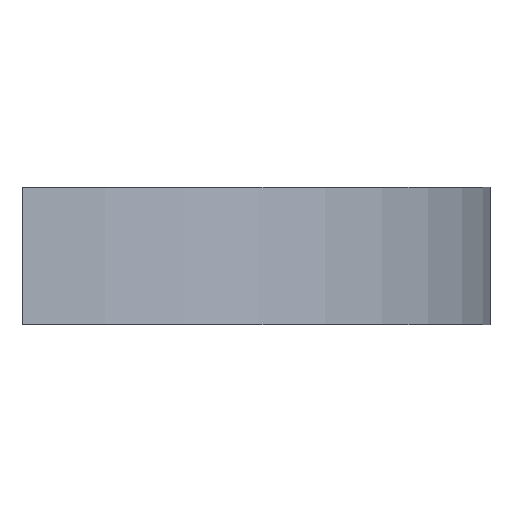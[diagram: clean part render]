
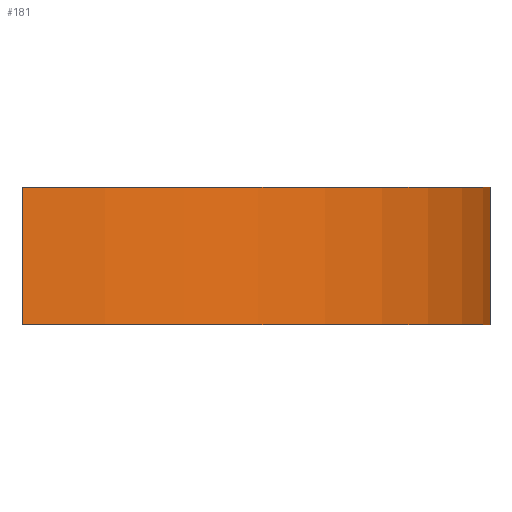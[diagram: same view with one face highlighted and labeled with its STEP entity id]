
A CAD part, left-side view. The second image highlights one B-rep face of the part: STEP entity #181.
In plain terms, the highlighted cylindrical face has radius 90 mm (diameter 180 mm), a partial arc.
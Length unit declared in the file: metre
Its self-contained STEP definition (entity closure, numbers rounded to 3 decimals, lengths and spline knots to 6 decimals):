
#8 = EDGE_CURVE ( 'NONE', #492, #410, #89, .T. ) ;
#14 = AXIS2_PLACEMENT_3D ( 'NONE', #665, #719, #715 ) ;
#58 = VECTOR ( 'NONE', #498, 1. ) ;
#64 = VECTOR ( 'NONE', #721, 1. ) ;
#78 = EDGE_CURVE ( 'NONE', #246, #492, #431, .T. ) ;
#89 = CIRCLE ( 'NONE', #130, 0.09 ) ;
#119 = CIRCLE ( 'NONE', #150, 0.09 ) ;
#130 = AXIS2_PLACEMENT_3D ( 'NONE', #227, #338, #280 ) ;
#150 = AXIS2_PLACEMENT_3D ( 'NONE', #308, #441, #420 ) ;
#152 = EDGE_CURVE ( 'NONE', #246, #236, #119, .T. ) ;
#171 = EDGE_CURVE ( 'NONE', #236, #410, #724, .T. ) ;
#181 = ADVANCED_FACE ( 'NONE', ( #716 ), #712, .T. ) ;
#227 = CARTESIAN_POINT ( 'NONE',  ( 0., 0., -0.025 ) ) ;
#236 = VERTEX_POINT ( 'NONE', #664 ) ;
#246 = VERTEX_POINT ( 'NONE', #690 ) ;
#280 = DIRECTION ( 'NONE',  ( -1., 0., 0. ) ) ;
#308 = CARTESIAN_POINT ( 'NONE',  ( 0., 0., 0. ) ) ;
#338 = DIRECTION ( 'NONE',  ( 0., 0., -1. ) ) ;
#366 = ORIENTED_EDGE ( 'NONE', *, *, #152, .T. ) ;
#402 = ORIENTED_EDGE ( 'NONE', *, *, #78, .F. ) ;
#410 = VERTEX_POINT ( 'NONE', #699 ) ;
#420 = DIRECTION ( 'NONE',  ( -1., 0., 0. ) ) ;
#431 = LINE ( 'NONE', #474, #58 ) ;
#432 = EDGE_LOOP ( 'NONE', ( #470, #402, #366, #454 ) ) ;
#441 = DIRECTION ( 'NONE',  ( 0., 0., -1. ) ) ;
#454 = ORIENTED_EDGE ( 'NONE', *, *, #171, .T. ) ;
#470 = ORIENTED_EDGE ( 'NONE', *, *, #8, .F. ) ;
#474 = CARTESIAN_POINT ( 'NONE',  ( 0.089861, -0.005, 0. ) ) ;
#492 = VERTEX_POINT ( 'NONE', #560 ) ;
#498 = DIRECTION ( 'NONE',  ( 0., 0., -1. ) ) ;
#552 = CARTESIAN_POINT ( 'NONE',  ( -0.089861, -0.005, 0. ) ) ;
#560 = CARTESIAN_POINT ( 'NONE',  ( 0.089861, -0.005, -0.025 ) ) ;
#664 = CARTESIAN_POINT ( 'NONE',  ( -0.089861, -0.005, 0. ) ) ;
#665 = CARTESIAN_POINT ( 'NONE',  ( 0., 0., 0. ) ) ;
#690 = CARTESIAN_POINT ( 'NONE',  ( 0.089861, -0.005, 0. ) ) ;
#699 = CARTESIAN_POINT ( 'NONE',  ( -0.089861, -0.005, -0.025 ) ) ;
#712 = CYLINDRICAL_SURFACE ( 'NONE', #14, 0.09 ) ;
#715 = DIRECTION ( 'NONE',  ( -1., 0., 0. ) ) ;
#716 = FACE_OUTER_BOUND ( 'NONE', #432, .T. ) ;
#719 = DIRECTION ( 'NONE',  ( 0., 0., -1. ) ) ;
#721 = DIRECTION ( 'NONE',  ( 0., 0., -1. ) ) ;
#724 = LINE ( 'NONE', #552, #64 ) ;
